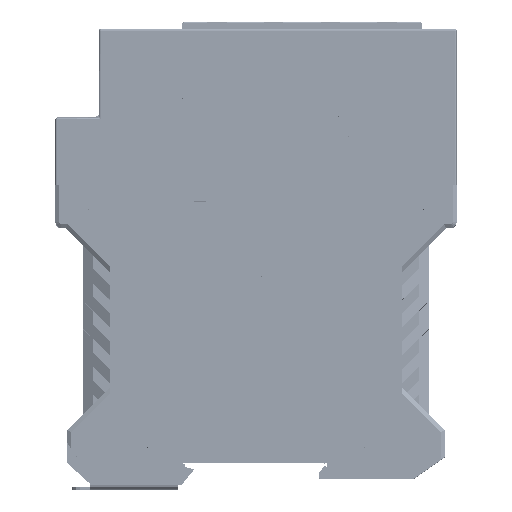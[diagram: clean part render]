
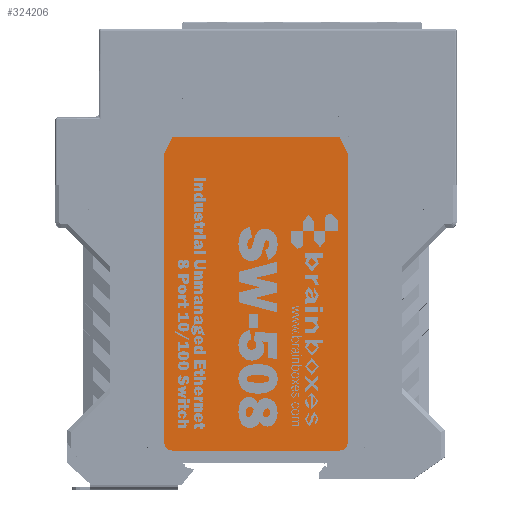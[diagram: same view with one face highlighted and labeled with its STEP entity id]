
A CAD part, top view. The second image highlights one B-rep face of the part: STEP entity #324206.
In plain terms, the highlighted planar face has unit normal (0, 0, 1).
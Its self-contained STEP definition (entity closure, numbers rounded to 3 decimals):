
#324206 = ADVANCED_FACE('',(#324207),#324275,.T.);
#324207 = FACE_BOUND('',#324208,.T.);
#324208 = EDGE_LOOP('',(#324209,#324219,#324228,#324236,#324245,#324253,
    #324261,#324269));
#324209 = ORIENTED_EDGE('',*,*,#324210,.T.);
#324210 = EDGE_CURVE('',#324211,#324213,#324215,.T.);
#324211 = VERTEX_POINT('',#324212);
#324212 = CARTESIAN_POINT('',(-26.55,21.3,41.));
#324213 = VERTEX_POINT('',#324214);
#324214 = CARTESIAN_POINT('',(-26.55,-50.,41.));
#324215 = LINE('',#324216,#324217);
#324216 = CARTESIAN_POINT('',(-26.55,-63.,41.));
#324217 = VECTOR('',#324218,1.);
#324218 = DIRECTION('',(0.,-1.,0.));
#324219 = ORIENTED_EDGE('',*,*,#324220,.T.);
#324220 = EDGE_CURVE('',#324213,#324221,#324223,.T.);
#324221 = VERTEX_POINT('',#324222);
#324222 = CARTESIAN_POINT('',(-24.55,-52.,41.));
#324223 = CIRCLE('',#324224,2.);
#324224 = AXIS2_PLACEMENT_3D('',#324225,#324226,#324227);
#324225 = CARTESIAN_POINT('',(-24.55,-50.,41.));
#324226 = DIRECTION('',(0.,0.,1.));
#324227 = DIRECTION('',(1.,0.,0.));
#324228 = ORIENTED_EDGE('',*,*,#324229,.F.);
#324229 = EDGE_CURVE('',#324230,#324221,#324232,.T.);
#324230 = VERTEX_POINT('',#324231);
#324231 = CARTESIAN_POINT('',(16.75,-52.,41.));
#324232 = LINE('',#324233,#324234);
#324233 = CARTESIAN_POINT('',(-3.9,-52.,41.));
#324234 = VECTOR('',#324235,1.);
#324235 = DIRECTION('',(-1.,0.,0.));
#324236 = ORIENTED_EDGE('',*,*,#324237,.T.);
#324237 = EDGE_CURVE('',#324230,#324238,#324240,.T.);
#324238 = VERTEX_POINT('',#324239);
#324239 = CARTESIAN_POINT('',(18.75,-50.,41.));
#324240 = CIRCLE('',#324241,2.);
#324241 = AXIS2_PLACEMENT_3D('',#324242,#324243,#324244);
#324242 = CARTESIAN_POINT('',(16.75,-50.,41.));
#324243 = DIRECTION('',(0.,0.,1.));
#324244 = DIRECTION('',(1.,0.,0.));
#324245 = ORIENTED_EDGE('',*,*,#324246,.T.);
#324246 = EDGE_CURVE('',#324238,#324247,#324249,.T.);
#324247 = VERTEX_POINT('',#324248);
#324248 = CARTESIAN_POINT('',(18.75,21.3,41.));
#324249 = LINE('',#324250,#324251);
#324250 = CARTESIAN_POINT('',(18.75,-63.,41.));
#324251 = VECTOR('',#324252,1.);
#324252 = DIRECTION('',(0.,1.,0.));
#324253 = ORIENTED_EDGE('',*,*,#324254,.T.);
#324254 = EDGE_CURVE('',#324247,#324255,#324257,.T.);
#324255 = VERTEX_POINT('',#324256);
#324256 = CARTESIAN_POINT('',(16.75,25.3,41.));
#324257 = LINE('',#324258,#324259);
#324258 = CARTESIAN_POINT('',(60.9,-63.,41.));
#324259 = VECTOR('',#324260,1.);
#324260 = DIRECTION('',(-0.447,0.894,0.));
#324261 = ORIENTED_EDGE('',*,*,#324262,.T.);
#324262 = EDGE_CURVE('',#324255,#324263,#324265,.T.);
#324263 = VERTEX_POINT('',#324264);
#324264 = CARTESIAN_POINT('',(-24.55,25.3,41.));
#324265 = LINE('',#324266,#324267);
#324266 = CARTESIAN_POINT('',(-3.9,25.3,41.));
#324267 = VECTOR('',#324268,1.);
#324268 = DIRECTION('',(-1.,0.,0.));
#324269 = ORIENTED_EDGE('',*,*,#324270,.T.);
#324270 = EDGE_CURVE('',#324263,#324211,#324271,.T.);
#324271 = LINE('',#324272,#324273);
#324272 = CARTESIAN_POINT('',(-68.7,-63.,41.));
#324273 = VECTOR('',#324274,1.);
#324274 = DIRECTION('',(-0.447,-0.894,0.));
#324275 = PLANE('',#324276);
#324276 = AXIS2_PLACEMENT_3D('',#324277,#324278,#324279);
#324277 = CARTESIAN_POINT('',(2.565,20.955,41.));
#324278 = DIRECTION('',(0.,0.,1.));
#324279 = DIRECTION('',(1.,0.,0.));
